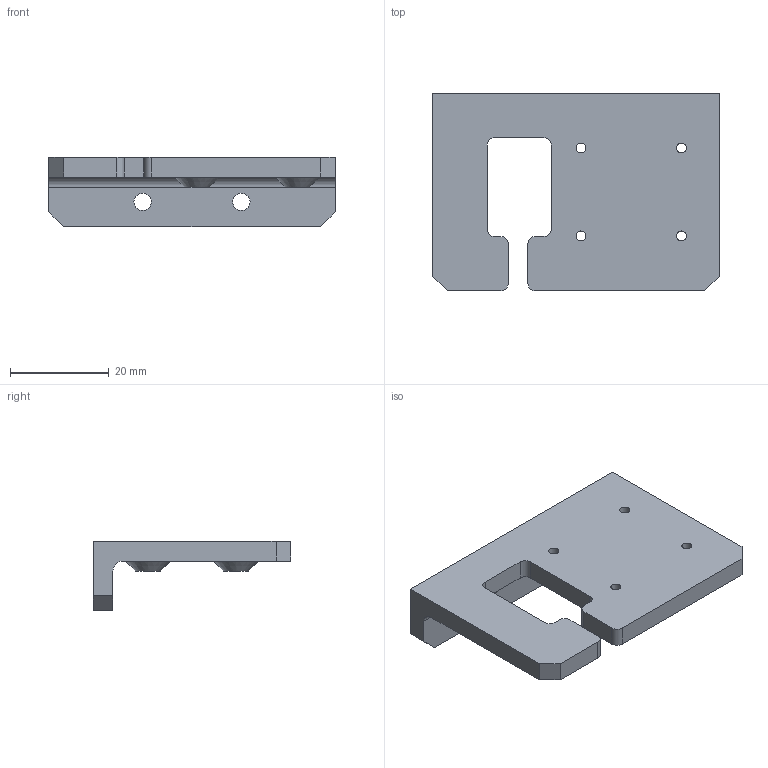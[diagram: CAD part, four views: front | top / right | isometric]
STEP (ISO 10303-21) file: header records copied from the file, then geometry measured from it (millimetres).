
FILE_DESCRIPTION(/* description */ ('Alibre Inc.'),/* implementation_level */ '2;1');
FILE_NAME(/* name */ 'export-8E5EF0C7-7457-4AE0-9CBF-08565A0FB0EF',/* time_stamp */ '2026-01-19T12:33:58+00:00',/* author */ (''),/* organization */ (''),/* preprocessor_version */ 'ST-DEVELOPER v17',/* originating_system */ 'Alibre',/* authorisation */ '');
FILE_SCHEMA (('CONFIG_CONTROL_DESIGN'));
Length unit declared in the file: millimetre
Bounding box: 58 x 40 x 14 mm (x, y, z)
Volume: 10525.7 mm3; surface area: 6491.2 mm2
Topology: 1 solids, 1 shells, 43 faces, 111 edges, 74 vertices
Faces by surface type: plane 24, cylinder 15, cone 4
Full cylindrical faces by diameter (mm): 2 x4, 3.5 x2
Entity records: 1334 total; most frequent: CARTESIAN_POINT 212, ORIENTED_EDGE 202, DIRECTION 195, EDGE_CURVE 101, AXIS2_PLACEMENT_3D 79, VERTEX_POINT 74, EDGE_LOOP 69, FACE_BOUND 69
